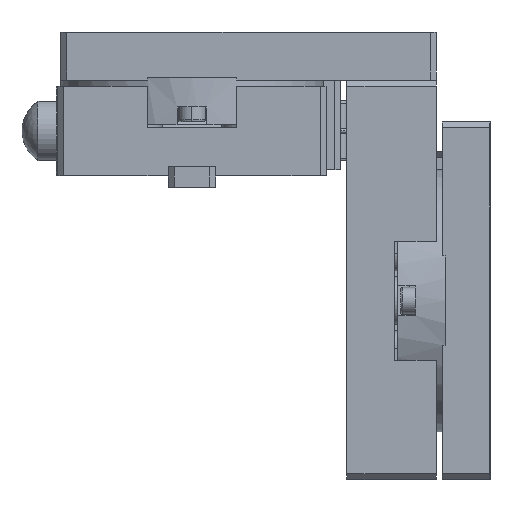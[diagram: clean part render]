
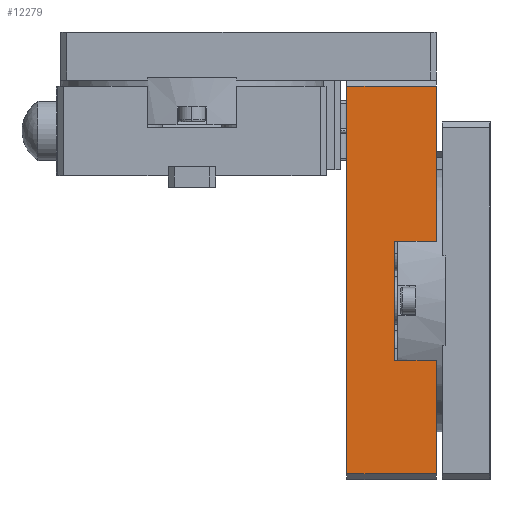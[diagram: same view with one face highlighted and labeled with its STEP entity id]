
A CAD part, left-side view. The second image highlights one B-rep face of the part: STEP entity #12279.
In plain terms, the highlighted planar face has unit normal (-1, 0, 0).
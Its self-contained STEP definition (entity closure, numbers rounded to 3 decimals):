
#164 = DIRECTION ( 'NONE',  ( 0., 0., 1. ) ) ;
#425 = LINE ( 'NONE', #3850, #23339 ) ;
#873 = DIRECTION ( 'NONE',  ( 0., -1., 0. ) ) ;
#1242 = LINE ( 'NONE', #16870, #3067 ) ;
#2012 = AXIS2_PLACEMENT_3D ( 'NONE', #18577, #16592, #18299 ) ;
#2827 = LINE ( 'NONE', #18874, #4547 ) ;
#3044 = CARTESIAN_POINT ( 'NONE',  ( 0., 24., 36. ) ) ;
#3067 = VECTOR ( 'NONE', #14771, 1000. ) ;
#3850 = CARTESIAN_POINT ( 'NONE',  ( 0., 9., -30. ) ) ;
#3954 = ORIENTED_EDGE ( 'NONE', *, *, #6644, .F. ) ;
#4290 = DIRECTION ( 'NONE',  ( 0., 0., 1. ) ) ;
#4547 = VECTOR ( 'NONE', #873, 1000. ) ;
#6047 = DIRECTION ( 'NONE',  ( 0., -1., 0. ) ) ;
#6644 = EDGE_CURVE ( 'NONE', #22257, #18040, #8004, .T. ) ;
#6985 = DIRECTION ( 'NONE',  ( 0., 1., 0. ) ) ;
#7236 = ORIENTED_EDGE ( 'NONE', *, *, #21521, .T. ) ;
#7541 = VECTOR ( 'NONE', #6047, 1000. ) ;
#7613 = CARTESIAN_POINT ( 'NONE',  ( 0., 16., -10. ) ) ;
#7751 = CARTESIAN_POINT ( 'NONE',  ( 0., 24., 36. ) ) ;
#8004 = LINE ( 'NONE', #12334, #7541 ) ;
#8212 = CARTESIAN_POINT ( 'NONE',  ( 0., 16., 30. ) ) ;
#8252 = VERTEX_POINT ( 'NONE', #19601 ) ;
#8392 = ORIENTED_EDGE ( 'NONE', *, *, #9994, .F. ) ;
#8466 = VECTOR ( 'NONE', #4290, 1000. ) ;
#8528 = VECTOR ( 'NONE', #6985, 1000. ) ;
#8726 = EDGE_CURVE ( 'NONE', #8252, #17491, #13658, .T. ) ;
#8832 = LINE ( 'NONE', #3044, #8528 ) ;
#9391 = VERTEX_POINT ( 'NONE', #18031 ) ;
#9994 = EDGE_CURVE ( 'NONE', #18040, #9391, #425, .T. ) ;
#10064 = LINE ( 'NONE', #8212, #8466 ) ;
#11092 = CARTESIAN_POINT ( 'NONE',  ( 0., 9., 36. ) ) ;
#11428 = DIRECTION ( 'NONE',  ( 0., -1., 0. ) ) ;
#11461 = VERTEX_POINT ( 'NONE', #7751 ) ;
#11694 = VECTOR ( 'NONE', #11428, 1000. ) ;
#11743 = ORIENTED_EDGE ( 'NONE', *, *, #22885, .F. ) ;
#11823 = CARTESIAN_POINT ( 'NONE',  ( 0., 24., 10. ) ) ;
#11948 = VERTEX_POINT ( 'NONE', #11092 ) ;
#11983 = DIRECTION ( 'NONE',  ( 0., 0., -1. ) ) ;
#12279 = ADVANCED_FACE ( 'NONE', ( #16721 ), #14490, .F. ) ;
#12334 = CARTESIAN_POINT ( 'NONE',  ( 0., 24., -10. ) ) ;
#13658 = LINE ( 'NONE', #11823, #11694 ) ;
#14091 = LINE ( 'NONE', #20142, #23478 ) ;
#14490 = PLANE ( 'NONE',  #2012 ) ;
#14771 = DIRECTION ( 'NONE',  ( 0., 0., -1. ) ) ;
#14773 = CARTESIAN_POINT ( 'NONE',  ( 0., 9., 10. ) ) ;
#14958 = ORIENTED_EDGE ( 'NONE', *, *, #8726, .T. ) ;
#15377 = ORIENTED_EDGE ( 'NONE', *, *, #19877, .F. ) ;
#15963 = VERTEX_POINT ( 'NONE', #25837 ) ;
#16592 = DIRECTION ( 'NONE',  ( 1., 0., 0. ) ) ;
#16721 = FACE_OUTER_BOUND ( 'NONE', #17080, .T. ) ;
#16870 = CARTESIAN_POINT ( 'NONE',  ( 0., 9., 30. ) ) ;
#17073 = EDGE_CURVE ( 'NONE', #15963, #9391, #2827, .T. ) ;
#17080 = EDGE_LOOP ( 'NONE', ( #11743, #7236, #15377, #19741, #8392, #3954, #21367, #14958 ) ) ;
#17491 = VERTEX_POINT ( 'NONE', #14773 ) ;
#17724 = CARTESIAN_POINT ( 'NONE',  ( 0., 9., -10. ) ) ;
#18031 = CARTESIAN_POINT ( 'NONE',  ( 0., 9., -29. ) ) ;
#18040 = VERTEX_POINT ( 'NONE', #17724 ) ;
#18299 = DIRECTION ( 'NONE',  ( 0., 0., -1. ) ) ;
#18577 = CARTESIAN_POINT ( 'NONE',  ( 0., 24., 30. ) ) ;
#18874 = CARTESIAN_POINT ( 'NONE',  ( 0., 24., -29. ) ) ;
#19601 = CARTESIAN_POINT ( 'NONE',  ( 0., 16., 10. ) ) ;
#19741 = ORIENTED_EDGE ( 'NONE', *, *, #17073, .T. ) ;
#19877 = EDGE_CURVE ( 'NONE', #15963, #11461, #14091, .T. ) ;
#20142 = CARTESIAN_POINT ( 'NONE',  ( 0., 24., 30. ) ) ;
#21367 = ORIENTED_EDGE ( 'NONE', *, *, #25621, .T. ) ;
#21521 = EDGE_CURVE ( 'NONE', #11948, #11461, #8832, .T. ) ;
#22257 = VERTEX_POINT ( 'NONE', #7613 ) ;
#22885 = EDGE_CURVE ( 'NONE', #11948, #17491, #1242, .T. ) ;
#23339 = VECTOR ( 'NONE', #11983, 1000. ) ;
#23478 = VECTOR ( 'NONE', #164, 1000. ) ;
#25621 = EDGE_CURVE ( 'NONE', #22257, #8252, #10064, .T. ) ;
#25837 = CARTESIAN_POINT ( 'NONE',  ( 0., 24., -29. ) ) ;
